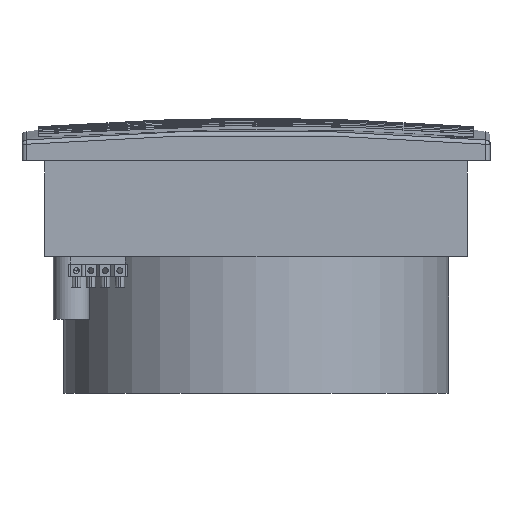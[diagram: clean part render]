
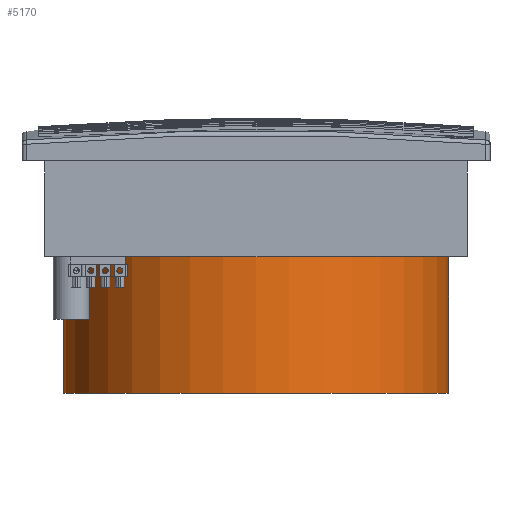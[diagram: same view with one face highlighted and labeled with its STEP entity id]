
A CAD part, front view. The second image highlights one B-rep face of the part: STEP entity #5170.
In plain terms, the highlighted cylindrical face has radius 132.5 mm (diameter 265 mm), a full revolution.
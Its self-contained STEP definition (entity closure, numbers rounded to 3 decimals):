
#788 = CYLINDRICAL_SURFACE ( 'NONE', #1377, 132.5 ) ;
#1377 = AXIS2_PLACEMENT_3D ( 'NONE', #2320, #5225, #18218 ) ;
#2320 = CARTESIAN_POINT ( 'NONE',  ( 145.5, -145.5, -160. ) ) ;
#4288 = CARTESIAN_POINT ( 'NONE',  ( 145.5, -145.5, -66. ) ) ;
#4585 = EDGE_LOOP ( 'NONE', ( #22602 ) ) ;
#5170 = ADVANCED_FACE ( 'NONE', ( #21492, #7596 ), #788, .T. ) ;
#5225 = DIRECTION ( 'NONE',  ( 0., 0., 1. ) ) ;
#5984 = EDGE_LOOP ( 'NONE', ( #12537 ) ) ;
#6038 = DIRECTION ( 'NONE',  ( -1., 0., 0. ) ) ;
#7596 = FACE_OUTER_BOUND ( 'NONE', #5984, .T. ) ;
#7985 = DIRECTION ( 'NONE',  ( 0., 0., -1. ) ) ;
#9455 = CARTESIAN_POINT ( 'NONE',  ( 13., -145.5, -66. ) ) ;
#10325 = VERTEX_POINT ( 'NONE', #9455 ) ;
#11702 = EDGE_CURVE ( 'NONE', #14987, #14987, #16439, .T. ) ;
#12269 = AXIS2_PLACEMENT_3D ( 'NONE', #18480, #7985, #20198 ) ;
#12407 = EDGE_CURVE ( 'NONE', #10325, #10325, #15393, .T. ) ;
#12537 = ORIENTED_EDGE ( 'NONE', *, *, #12407, .T. ) ;
#14987 = VERTEX_POINT ( 'NONE', #19897 ) ;
#15393 = CIRCLE ( 'NONE', #21459, 132.5 ) ;
#16439 = CIRCLE ( 'NONE', #12269, 132.5 ) ;
#16553 = DIRECTION ( 'NONE',  ( 0., 0., -1. ) ) ;
#18218 = DIRECTION ( 'NONE',  ( 1., 0., 0. ) ) ;
#18480 = CARTESIAN_POINT ( 'NONE',  ( 145.5, -145.5, -160. ) ) ;
#19897 = CARTESIAN_POINT ( 'NONE',  ( 13., -145.5, -160. ) ) ;
#20198 = DIRECTION ( 'NONE',  ( -1., 0., 0. ) ) ;
#21459 = AXIS2_PLACEMENT_3D ( 'NONE', #4288, #16553, #6038 ) ;
#21492 = FACE_OUTER_BOUND ( 'NONE', #4585, .T. ) ;
#22602 = ORIENTED_EDGE ( 'NONE', *, *, #11702, .F. ) ;
